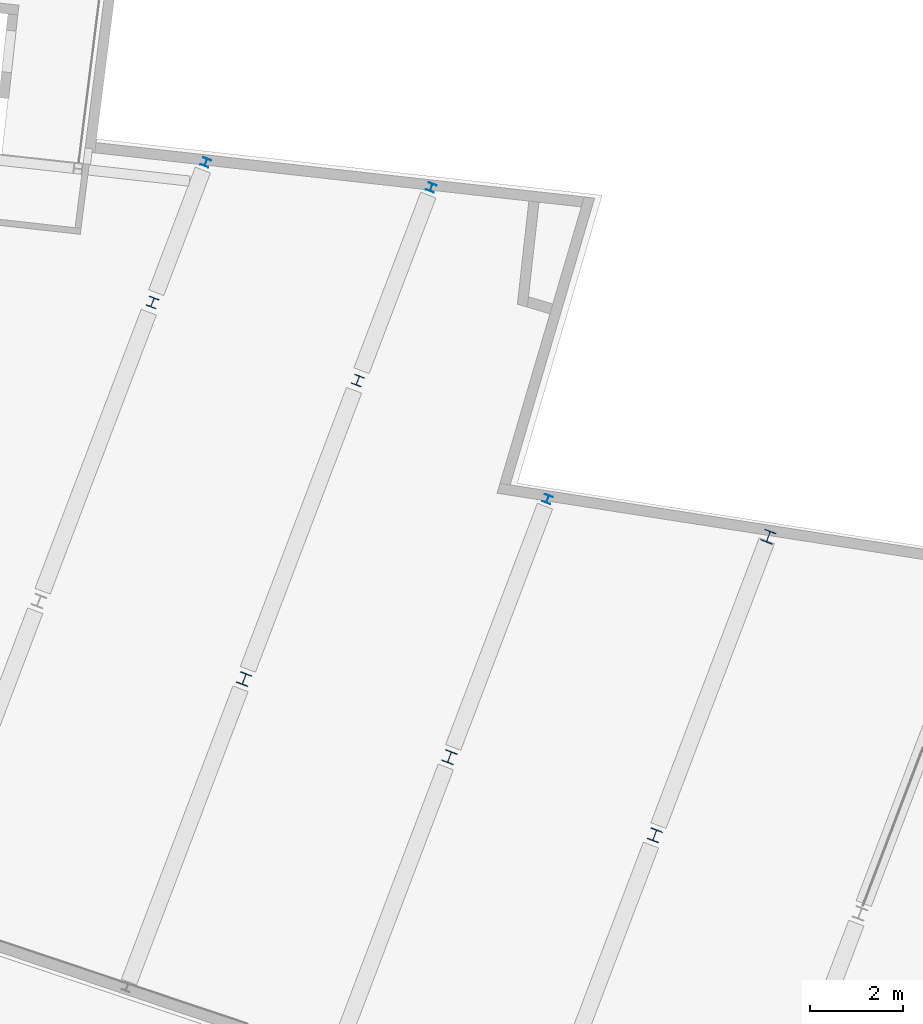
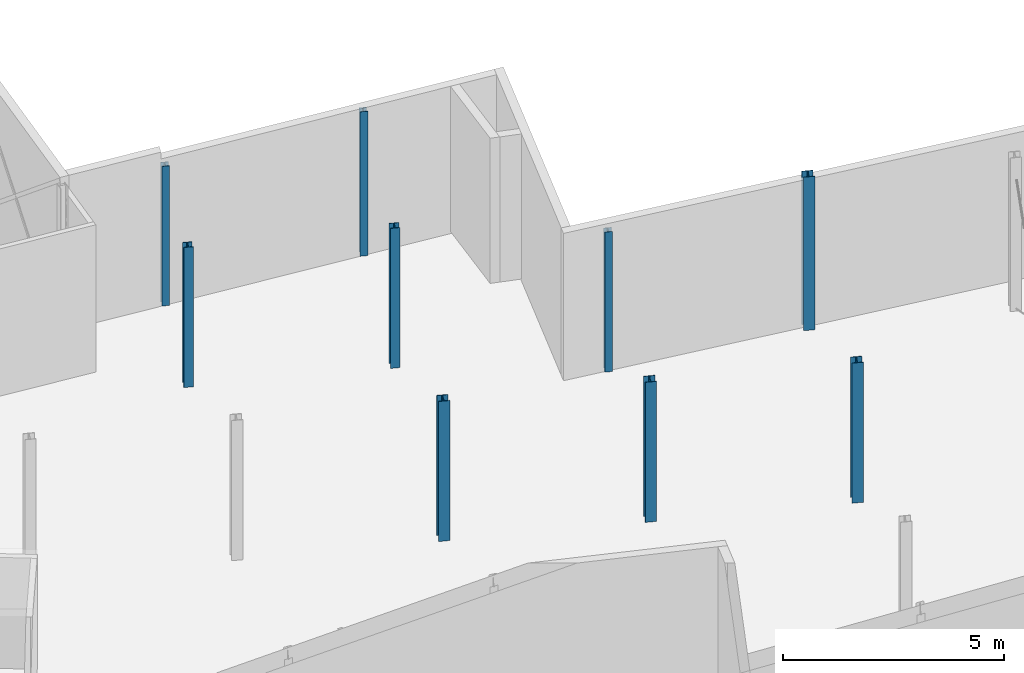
# One storey, part 34 of 46: 9 columns.
"""IFC2X3 building model written with IfcOpenShell, lengths in millimetres."""

from ifc_helpers import new_model, entity, si_unit, converted_unit, derived_unit, direction, frame, frame_2d, origin, origin_2d_with_axis, place, context, subcontext, project, spatial, i_section, extrude, source, transform, mapped, material, type_object, type_shapes, element, save


model = new_model("IFC2X3")

# Units and contexts
model_context = context("Model", 3, precision=0.01, world=origin(), true_north=direction((6.123233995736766e-17, 1.0)))
body_context = subcontext(model_context, "Body", "Model", "MODEL_VIEW")
ifc_project = project(units=[si_unit("LENGTHUNIT", "METRE", prefix="MILLI"), converted_unit("PLANEANGLEUNIT", "DEGREE", entity("IfcPlaneAngleMeasure", 0.017453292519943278), si_unit("PLANEANGLEUNIT", "RADIAN"), dimensions=[0, 0, 0, 0, 0, 0, 0]), si_unit("AREAUNIT", "SQUARE_METRE"), derived_unit("THERMALTRANSMITTANCEUNIT", [(si_unit("MASSUNIT", "GRAM", prefix="KILO"), 1), (si_unit("THERMODYNAMICTEMPERATUREUNIT", "KELVIN"), -1), (si_unit("TIMEUNIT", "SECOND"), -3)])], contexts=[model_context])

# Site, building, storey
site_placement = place(None, frame((-72937.88054949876, 11621.45624098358, 0.0), z_axis=(0.0, 0.0, 1.0), x_axis=(0.9346418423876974, -0.35559053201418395, 0.0)))
site = spatial("IfcSite", under=ifc_project, at=site_placement, Name="Default", CompositionType="ELEMENT")
building_placement = place(site_placement, origin())
building = spatial("IfcBuilding", under=site, at=building_placement, CompositionType="ELEMENT")
storey_placement = place(building_placement, origin())
storey = spatial("IfcBuildingStorey", under=building, at=storey_placement, Name="00 begane grond", CompositionType="ELEMENT", Elevation=0.0)

# Columns
ifc_material = material(Name="metaal_staal_generiek")
column_type_1 = type_object("IfcColumnType", Name="DIE26", PredefinedType="COLUMN", material=ifc_material)
shared_shape_1 = source(origin(), body_context, "Body", "SweptSolid", [
    extrude(i_section(OverallWidth=260.0, OverallDepth=249.99999999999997, WebThickness=7.499999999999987, FlangeThickness=12.5, FilletRadius=24.0, at=origin_2d_with_axis()), frame((0.0, 0.0, -60.0), z_axis=(0.0, 0.0, 1.0), x_axis=(-1.0, 0.0, 0.0)), (0.0, 0.0, 1.0), 4230.0),
])
type_shapes(column_type_1, [shared_shape_1])
column_1_placement = place(storey_placement, frame((38650.0, 28760.0, 0.0)))
element("IfcColumn", 1, at=column_1_placement, inside=storey, type_object=column_type_1, material=ifc_material, Name="28.11_SCO_KolomHEA:DIE26", ObjectType="28.11_SCO_KolomHEA:DIE26", context=body_context, shape_type="MappedRepresentation", body=[
    mapped(shared_shape_1, transform((0.0, 0.0, 0.0), scale=1.0)),
])
column_type_2 = type_object("IfcColumnType", Name="DIE26", PredefinedType="COLUMN", material=ifc_material)
shared_shape_2 = source(origin(), body_context, "Body", "SweptSolid", [
    extrude(i_section(OverallWidth=260.00000000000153, OverallDepth=249.9999999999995, WebThickness=7.499999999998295, FlangeThickness=12.50000000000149, FilletRadius=24.0, at=frame_2d((0.0, -2.1671553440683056e-12), x_axis=(1.0, 0.0))), frame((38650.0, 21880.0, -60.0), z_axis=(0.0, 0.0, 1.0), x_axis=(-1.0, 0.0, 0.0)), (0.0, 0.0, 1.0), 3859.999999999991),
])
type_shapes(column_type_2, [shared_shape_2])
column_2_placement = place(storey_placement, origin())
element("IfcColumn", 2, at=column_2_placement, inside=storey, type_object=column_type_2, material=ifc_material, Name="28.11_SCO_KolomHEA:DIE26", ObjectType="28.11_SCO_KolomHEA:DIE26", context=body_context, shape_type="MappedRepresentation", body=[
    mapped(shared_shape_2, transform((0.0, 0.0, 0.0), scale=1.0)),
])
column_type_3 = type_object("IfcColumnType", Name="DIE26", PredefinedType="COLUMN", material=ifc_material)
shared_shape_3 = source(origin(), body_context, "Body", "SweptSolid", [
    extrude(i_section(OverallWidth=260.00000000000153, OverallDepth=249.9999999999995, WebThickness=7.499999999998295, FlangeThickness=12.50000000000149, FilletRadius=24.0, at=frame_2d((0.0, -2.1671553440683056e-12), x_axis=(1.0, 0.0))), frame((33920.0, 21880.0, -60.0), z_axis=(0.0, 0.0, 1.0), x_axis=(-1.0, 0.0, 0.0)), (0.0, 0.0, 1.0), 3859.999999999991),
])
type_shapes(column_type_3, [shared_shape_3])
column_3_placement = place(storey_placement, origin())
element("IfcColumn", 3, at=column_3_placement, inside=storey, type_object=column_type_3, material=ifc_material, Name="28.11_SCO_KolomHEA:DIE26", ObjectType="28.11_SCO_KolomHEA:DIE26", context=body_context, shape_type="MappedRepresentation", body=[
    mapped(shared_shape_3, transform((0.0, 0.0, 0.0), scale=1.0)),
])
column_type_4 = type_object("IfcColumnType", Name="DIE26", PredefinedType="COLUMN", material=ifc_material)
shared_shape_4 = source(origin(), body_context, "Body", "SweptSolid", [
    extrude(i_section(OverallWidth=260.00000000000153, OverallDepth=249.9999999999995, WebThickness=7.499999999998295, FlangeThickness=12.50000000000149, FilletRadius=24.0, at=frame_2d((4.320099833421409e-12, -2.1671553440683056e-12), x_axis=(1.0, 0.0))), frame((29190.0, 21880.0, -60.0), z_axis=(0.0, 0.0, 1.0), x_axis=(-1.0, 0.0, 0.0)), (0.0, 0.0, 1.0), 3859.999999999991),
])
type_shapes(column_type_4, [shared_shape_4])
column_4_placement = place(storey_placement, origin())
element("IfcColumn", 4, at=column_4_placement, inside=storey, type_object=column_type_4, material=ifc_material, Name="28.11_SCO_KolomHEA:DIE26", ObjectType="28.11_SCO_KolomHEA:DIE26", context=body_context, shape_type="MappedRepresentation", body=[
    mapped(shared_shape_4, transform((0.0, 0.0, 0.0), scale=1.0)),
])
column_type_5 = type_object("IfcColumnType", Name="DIE22", PredefinedType="COLUMN", material=ifc_material)
shared_shape_5 = source(origin(), body_context, "Body", "SweptSolid", [
    extrude(i_section(OverallWidth=220.00000000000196, OverallDepth=209.9999999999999, WebThickness=6.999999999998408, FlangeThickness=11.000000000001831, FilletRadius=18.0, at=frame_2d((-4.334310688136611e-12, -2.1671553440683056e-12), x_axis=(1.0, 0.0))), frame((29190.0, 28760.0, -60.0), z_axis=(0.0, 0.0, 1.0), x_axis=(-1.0, 0.0, 0.0)), (0.0, 0.0, 1.0), 3859.999999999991),
])
type_shapes(column_type_5, [shared_shape_5])
column_5_placement = place(storey_placement, origin())
element("IfcColumn", 5, at=column_5_placement, inside=storey, type_object=column_type_5, material=ifc_material, Name="28.11_SCO_KolomHEA:DIE22", ObjectType="28.11_SCO_KolomHEA:DIE22", context=body_context, shape_type="MappedRepresentation", body=[
    mapped(shared_shape_5, transform((0.0, 0.0, 0.0), scale=1.0)),
])
column_type_6 = type_object("IfcColumnType", Name="DIE22", PredefinedType="COLUMN", material=ifc_material)
shared_shape_6 = source(origin(), body_context, "Body", "SweptSolid", [
    extrude(i_section(OverallWidth=220.00000000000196, OverallDepth=209.9999999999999, WebThickness=6.999999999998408, FlangeThickness=11.000000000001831, FilletRadius=18.0, at=frame_2d((-4.334310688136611e-12, -2.1671553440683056e-12), x_axis=(1.0, 0.0))), frame((24460.0, 28760.0, -60.0), z_axis=(0.0, 0.0, 1.0), x_axis=(-1.0, 0.0, 0.0)), (0.0, 0.0, 1.0), 3859.999999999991),
])
type_shapes(column_type_6, [shared_shape_6])
column_6_placement = place(storey_placement, origin())
element("IfcColumn", 6, at=column_6_placement, inside=storey, type_object=column_type_6, material=ifc_material, Name="28.11_SCO_KolomHEA:DIE22", ObjectType="28.11_SCO_KolomHEA:DIE22", context=body_context, shape_type="MappedRepresentation", body=[
    mapped(shared_shape_6, transform((0.0, 0.0, 0.0), scale=1.0)),
])
column_type_7 = type_object("IfcColumnType", Name="DIE18", PredefinedType="COLUMN", material=ifc_material)
shared_shape_7 = source(origin(), body_context, "Body", "SweptSolid", [
    extrude(i_section(OverallWidth=179.99999999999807, OverallDepth=171.0000000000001, WebThickness=5.999999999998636, FlangeThickness=9.500000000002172, FilletRadius=15.0, at=frame_2d((2.1671553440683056e-12, 2.1671553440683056e-12), x_axis=(1.0, 0.0))), frame((24460.0, 31987.674041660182, -60.0), z_axis=(0.0, 0.0, 1.0), x_axis=(-1.0, 0.0, 0.0)), (0.0, 0.0, 1.0), 3849.999999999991),
])
type_shapes(column_type_7, [shared_shape_7])
column_7_placement = place(storey_placement, origin())
element("IfcColumn", 7, at=column_7_placement, inside=storey, type_object=column_type_7, material=ifc_material, Name="28.11_SCO_KolomHEA:DIE18", ObjectType="28.11_SCO_KolomHEA:DIE18", context=body_context, shape_type="MappedRepresentation", body=[
    mapped(shared_shape_7, transform((0.0, 0.0, 0.0), scale=1.0)),
])
column_type_8 = type_object("IfcColumnType", Name="DIE18", PredefinedType="COLUMN", material=ifc_material)
shared_shape_8 = source(origin(), body_context, "Body", "SweptSolid", [
    extrude(i_section(OverallWidth=179.99999999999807, OverallDepth=171.0000000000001, WebThickness=5.999999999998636, FlangeThickness=9.500000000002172, FilletRadius=15.0, at=frame_2d((1.0828671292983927e-11, 2.1671553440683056e-12), x_axis=(1.0, 0.0))), frame((29190.0, 33209.21762443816, -60.0), z_axis=(0.0, 0.0, 1.0), x_axis=(-1.0, 0.0, 0.0)), (0.0, 0.0, 1.0), 3979.9999999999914),
])
type_shapes(column_type_8, [shared_shape_8])
column_8_placement = place(storey_placement, origin())
element("IfcColumn", 8, at=column_8_placement, inside=storey, type_object=column_type_8, material=ifc_material, Name="28.11_SCO_KolomHEA:DIE18", ObjectType="28.11_SCO_KolomHEA:DIE18", context=body_context, shape_type="MappedRepresentation", body=[
    mapped(shared_shape_8, transform((0.0, 0.0, 0.0), scale=1.0)),
])
column_type_9 = type_object("IfcColumnType", Name="DIE18", PredefinedType="COLUMN", material=ifc_material)
shared_shape_9 = source(origin(), body_context, "Body", "SweptSolid", [
    extrude(i_section(OverallWidth=179.99999999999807, OverallDepth=171.0000000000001, WebThickness=5.999999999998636, FlangeThickness=9.500000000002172, FilletRadius=15.0, at=frame_2d((2.1671553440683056e-12, -2.1671553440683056e-12), x_axis=(1.0, 0.0))), frame((33920.0, 27824.56968577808, -60.0), z_axis=(0.0, 0.0, 1.0), x_axis=(-1.0, 0.0, 0.0)), (0.0, 0.0, 1.0), 3859.999999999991),
])
type_shapes(column_type_9, [shared_shape_9])
column_9_placement = place(storey_placement, origin())
element("IfcColumn", 9, at=column_9_placement, inside=storey, type_object=column_type_9, material=ifc_material, Name="28.11_SCO_KolomHEA:DIE18", ObjectType="28.11_SCO_KolomHEA:DIE18", context=body_context, shape_type="MappedRepresentation", body=[
    mapped(shared_shape_9, transform((0.0, 0.0, 0.0), scale=1.0)),
])

save(model, "model.ifc")
